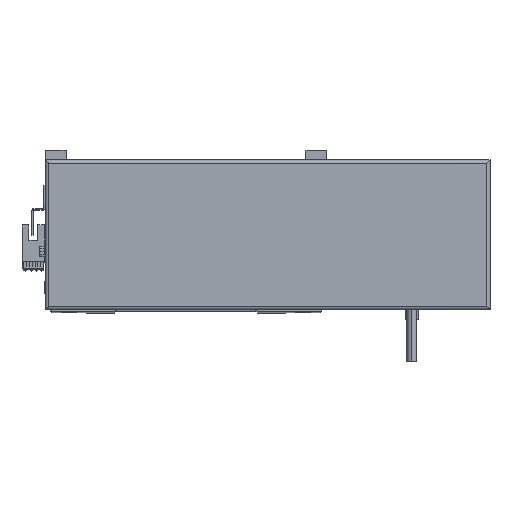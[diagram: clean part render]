
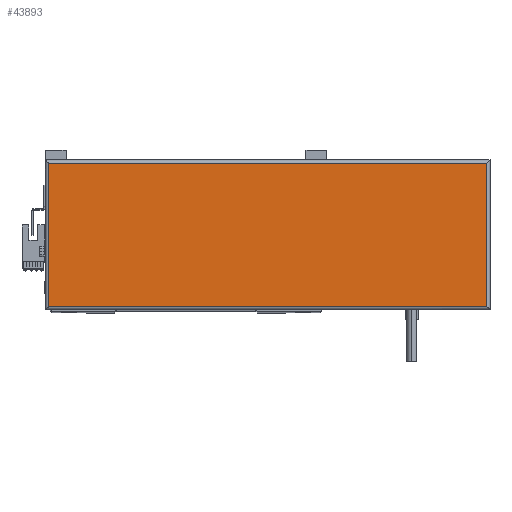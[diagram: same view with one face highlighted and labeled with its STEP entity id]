
A CAD part, top view. The second image highlights one B-rep face of the part: STEP entity #43893.
In plain terms, the highlighted planar face has unit normal (0, 0, 1).
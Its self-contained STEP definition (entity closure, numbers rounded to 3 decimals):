
#194 = ORIENTED_EDGE ( 'NONE', *, *, #22461, .T. ) ;
#264 = CARTESIAN_POINT ( 'NONE',  ( 2., 88., 44.8 ) ) ;
#671 = CARTESIAN_POINT ( 'NONE',  ( 265., 2., 44.8 ) ) ;
#1282 = VERTEX_POINT ( 'NONE', #671 ) ;
#2465 = CARTESIAN_POINT ( 'NONE',  ( 0., 88., 44.8 ) ) ;
#3655 = CARTESIAN_POINT ( 'NONE',  ( 2., 2., 44.8 ) ) ;
#4364 = DIRECTION ( 'NONE',  ( 0., 1., 0. ) ) ;
#4524 = VECTOR ( 'NONE', #7839, 1000. ) ;
#4641 = LINE ( 'NONE', #2465, #10374 ) ;
#7166 = EDGE_CURVE ( 'NONE', #9856, #19881, #4641, .T. ) ;
#7839 = DIRECTION ( 'NONE',  ( 1., 0., 0. ) ) ;
#9664 = LINE ( 'NONE', #17369, #4524 ) ;
#9856 = VERTEX_POINT ( 'NONE', #31550 ) ;
#10374 = VECTOR ( 'NONE', #35005, 1000. ) ;
#11828 = CARTESIAN_POINT ( 'NONE',  ( 265., 90., 44.8 ) ) ;
#12482 = ORIENTED_EDGE ( 'NONE', *, *, #39338, .T. ) ;
#13815 = CARTESIAN_POINT ( 'NONE',  ( 133.5, 45., 44.8 ) ) ;
#15605 = LINE ( 'NONE', #37396, #24672 ) ;
#15751 = VECTOR ( 'NONE', #4364, 1000. ) ;
#16871 = ORIENTED_EDGE ( 'NONE', *, *, #7166, .T. ) ;
#17369 = CARTESIAN_POINT ( 'NONE',  ( 267., 2., 44.8 ) ) ;
#17642 = PLANE ( 'NONE',  #28673 ) ;
#19881 = VERTEX_POINT ( 'NONE', #264 ) ;
#22461 = EDGE_CURVE ( 'NONE', #19881, #43990, #15605, .T. ) ;
#24672 = VECTOR ( 'NONE', #26411, 1000. ) ;
#25383 = LINE ( 'NONE', #11828, #15751 ) ;
#26411 = DIRECTION ( 'NONE',  ( 0., -1., 0. ) ) ;
#28673 = AXIS2_PLACEMENT_3D ( 'NONE', #13815, #39070, #42847 ) ;
#31550 = CARTESIAN_POINT ( 'NONE',  ( 265., 88., 44.8 ) ) ;
#34220 = ORIENTED_EDGE ( 'NONE', *, *, #37977, .T. ) ;
#35005 = DIRECTION ( 'NONE',  ( -1., 0., 0. ) ) ;
#37396 = CARTESIAN_POINT ( 'NONE',  ( 2., 0., 44.8 ) ) ;
#37977 = EDGE_CURVE ( 'NONE', #43990, #1282, #9664, .T. ) ;
#38886 = EDGE_LOOP ( 'NONE', ( #12482, #16871, #194, #34220 ) ) ;
#39070 = DIRECTION ( 'NONE',  ( 0., 0., 1. ) ) ;
#39338 = EDGE_CURVE ( 'NONE', #1282, #9856, #25383, .T. ) ;
#42309 = FACE_OUTER_BOUND ( 'NONE', #38886, .T. ) ;
#42847 = DIRECTION ( 'NONE',  ( 1., 0., 0. ) ) ;
#43893 = ADVANCED_FACE ( 'NONE', ( #42309 ), #17642, .T. ) ;
#43990 = VERTEX_POINT ( 'NONE', #3655 ) ;
